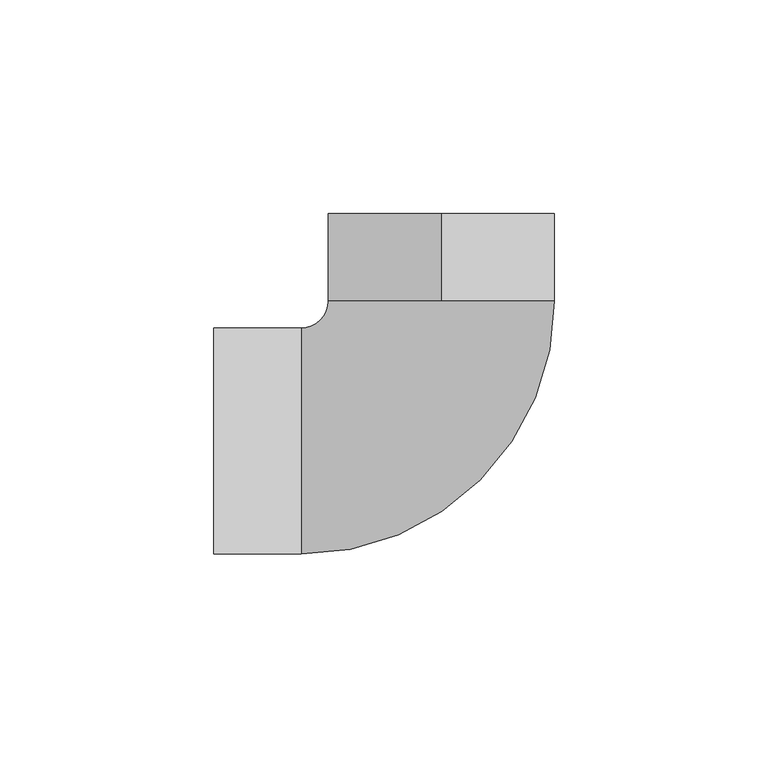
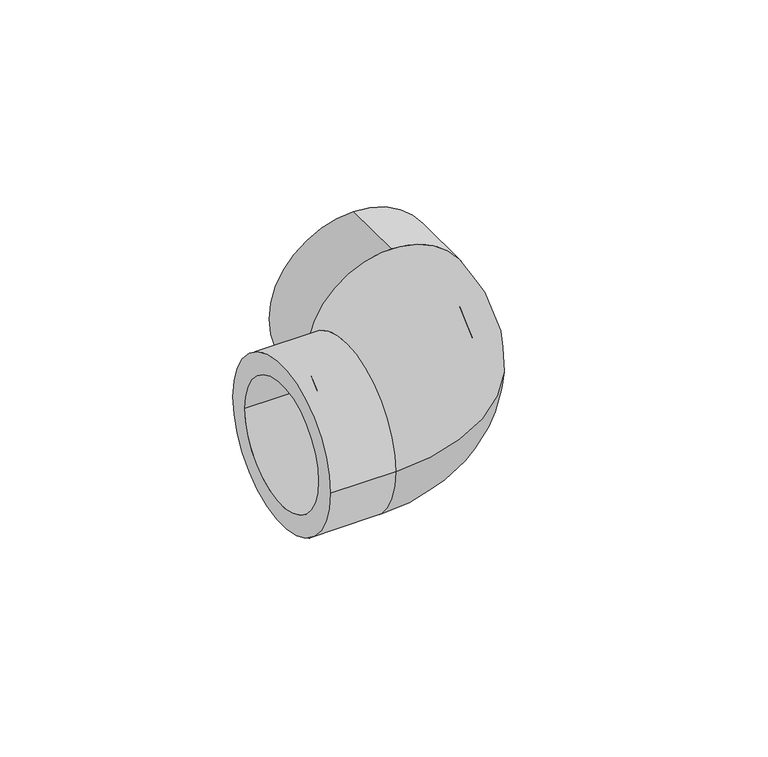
"""IFC4 building model written with IfcOpenShell, lengths in millimetres: pipe fitting geometry, 35_Угольник полипропиленовый 90 : Белый цвет."""

import ifcopenshell
import ifcopenshell.guid

model = None  # the IFC model being written
_history = None  # IfcOwnerHistory: only IFC2X3 demands one
_inside = {}  # id of a spatial element -> (the spatial element, [elements in it])
_under = {}  # id of a project, library or spatial element -> (it, [spatial elements below it])
_declared = {}  # id of a project -> (the project, [libraries it declares])
_typed = {}  # id of a type object -> (the type object, [elements of that type])
_made_of = {}  # id of a material, layer set ... -> (it, [elements and type objects made of it])


def new_model(schema):
    """Start an empty IFC model of exactly this schema.

    Asked for "IFC4X3", IfcOpenShell would pick the latest addendum, in which some entities
    have other attributes; the version numbers below select the first issue.
    IFC2X3 requires an IfcOwnerHistory on every rooted entity: one is made here for all.
    """
    global model, _history
    if schema == "IFC4X3":
        model = ifcopenshell.file(schema_version=(4, 3, 0, 0))
    else:
        model = ifcopenshell.file(schema=schema)
    _inside.clear()
    _under.clear()
    _declared.clear()
    _typed.clear()
    _made_of.clear()
    _history = None
    if model.schema == "IFC2X3":
        org = make("IfcOrganization", Name="unknown")
        user = make(
            "IfcPersonAndOrganization",
            ThePerson=make("IfcPerson", FamilyName="unknown"),
            TheOrganization=org,
        )
        app = make(
            "IfcApplication",
            ApplicationDeveloper=org,
            Version="unknown",
            ApplicationFullName="unknown",
            ApplicationIdentifier="unknown",
        )
        _history = make(
            "IfcOwnerHistory",
            OwningUser=user,
            OwningApplication=app,
            ChangeAction="ADDED",
            CreationDate=0,
        )
    return model


def make(cls, **values):
    """One entity of the class cls with the attributes given. An attribute that is None is left unset."""
    return model.create_entity(
        cls, **{name: value for name, value in values.items() if value is not None}
    )


def rooted(cls, **values):
    """An entity with a GlobalId (a new one), such as an element, a storey or a relation."""
    return make(cls, GlobalId=ifcopenshell.guid.new(), OwnerHistory=_history, **values)


def si_unit(unit_type, name, prefix=None):
    """IfcSIUnit, for example si_unit("LENGTHUNIT", "METRE", prefix="MILLI")."""
    return make("IfcSIUnit", UnitType=unit_type, Prefix=prefix, Name=name)


def assignment(units):
    """IfcUnitAssignment: the units of a project."""
    return None if units is None else make("IfcUnitAssignment", Units=units)


def point(xyz):
    """IfcCartesianPoint."""
    return None if xyz is None else make("IfcCartesianPoint", Coordinates=xyz)


def direction(xyz):
    """IfcDirection."""
    return None if xyz is None else make("IfcDirection", DirectionRatios=xyz)


def frame(location, z_axis=None, x_axis=None):
    """IfcAxis2Placement3D, a coordinate frame: its origin and axes. An axis left out is left unset."""
    return make(
        "IfcAxis2Placement3D",
        Location=point(location),
        Axis=direction(z_axis),
        RefDirection=direction(x_axis),
    )


def origin():
    """The frame at (0, 0, 0) with its axes left unset."""
    return frame((0.0, 0.0, 0.0))


def place(relative_to, where):
    """IfcLocalPlacement: puts the frame where relative to a parent placement (None: the world)."""
    return make(
        "IfcLocalPlacement", PlacementRelTo=relative_to, RelativePlacement=where
    )


def context(
    kind, dimensions, precision=None, world=None, true_north=None, identifier=None
):
    """IfcGeometricRepresentationContext, for example the 3D "Model" context."""
    return make(
        "IfcGeometricRepresentationContext",
        ContextIdentifier=identifier,
        ContextType=kind,
        CoordinateSpaceDimension=dimensions,
        Precision=precision,
        WorldCoordinateSystem=world,
        TrueNorth=true_north,
    )


def project(units=None, contexts=None):
    """IfcProject with its units and contexts."""
    return rooted(
        "IfcProject",
        Name="project",
        RepresentationContexts=contexts,
        UnitsInContext=assignment(units),
    )


def spatial(cls, under=None, at=None, **own):
    """A site, building, storey or space (cls), placed at a placement, below another one or the project."""
    s = rooted(cls, ObjectPlacement=at, **own)
    if under is not None:
        _under.setdefault(under.id(), (under, []))[1].append(s)
    return s


def polyline(points):
    """IfcPolyline through the points."""
    return make("IfcPolyline", Points=[point(p) for p in points])


def circle_curve(where, radius):
    """IfcCircle in the frame where."""
    return make("IfcCircle", Position=where, Radius=radius)


def ellipse_curve(where, semi_axis1, semi_axis2):
    """IfcEllipse in the frame where."""
    return make(
        "IfcEllipse", Position=where, SemiAxis1=semi_axis1, SemiAxis2=semi_axis2
    )


def trimmed(basis, trim1, trim2, sense, master):
    """IfcTrimmedCurve: the piece of a basis curve between two trims."""
    return make(
        "IfcTrimmedCurve",
        BasisCurve=basis,
        Trim1=trim1,
        Trim2=trim2,
        SenseAgreement=sense,
        MasterRepresentation=master,
    )


def shape(context_of_items, identifier, shape_type, items):
    """IfcShapeRepresentation: the items that make up one representation, for example the "Body"."""
    return make(
        "IfcShapeRepresentation",
        ContextOfItems=context_of_items,
        RepresentationIdentifier=identifier,
        RepresentationType=shape_type,
        Items=items,
    )


def source(mapping_origin, context_of_items, identifier, shape_type, items):
    """IfcRepresentationMap: a shape defined once, which mapped items show again and again."""
    return make(
        "IfcRepresentationMap",
        MappingOrigin=mapping_origin,
        MappedRepresentation=shape(context_of_items, identifier, shape_type, items),
    )


def transform(
    local_origin,
    x_axis=None,
    y_axis=None,
    z_axis=None,
    scale=None,
    scale2=None,
    scale3=None,
    uniform=True,
):
    """IfcCartesianTransformationOperator3D, or its non-uniform kind. x_axis, y_axis, z_axis: its Axis1, 2, 3."""
    if uniform:
        return make(
            "IfcCartesianTransformationOperator3D",
            Axis1=direction(x_axis),
            Axis2=direction(y_axis),
            LocalOrigin=point(local_origin),
            Scale=scale,
            Axis3=direction(z_axis),
        )
    return make(
        "IfcCartesianTransformationOperator3DnonUniform",
        Axis1=direction(x_axis),
        Axis2=direction(y_axis),
        LocalOrigin=point(local_origin),
        Scale=scale,
        Axis3=direction(z_axis),
        Scale2=scale2,
        Scale3=scale3,
    )


def mapped(mapping_source, mapping_target):
    """IfcMappedItem: shows the shape of a source again, moved by a transform."""
    return make(
        "IfcMappedItem", MappingSource=mapping_source, MappingTarget=mapping_target
    )


def made_of(thing, what):
    """Note that an element or type object is made of a material, layer set ...; save() writes the relation."""
    if what is not None:
        _made_of.setdefault(what.id(), (what, []))[1].append(thing)
    return thing


def element(
    cls,
    number,
    at=None,
    inside=None,
    cuts=None,
    type_object=None,
    material=None,
    context=None,
    identifier="Body",
    shape_type=None,
    held_by="IfcProductDefinitionShape",
    body=None,
    shapes=None,
    **own,
):
    """One element of the class cls, such as IfcWall. Its Tag is "e" and its number.

    at: its placement. inside: the storey or other place that contains it. cuts: it is an
    opening in that element (IfcRelVoidsElement). A single representation is given by context,
    identifier, shape_type and body (its items); several are given by shapes. held_by: the class
    of the entity that holds the representations. save() writes the other relations.
    """
    e = rooted(cls, Tag="e%d" % number, ObjectPlacement=at, **own)
    if body is not None:
        shapes = [shape(context, identifier, shape_type, body)]
    if shapes is not None:
        e.Representation = make(held_by, Representations=shapes)
    if inside is not None:
        _inside.setdefault(inside.id(), (inside, []))[1].append(e)
    if cuts is not None:
        rooted(
            "IfcRelVoidsElement", RelatingBuildingElement=cuts, RelatedOpeningElement=e
        )
    if type_object is not None:
        _typed.setdefault(type_object.id(), (type_object, []))[1].append(e)
    return made_of(e, material)


def aggregate(whole, parts):
    """IfcRelAggregates: a whole, such as a stair, and the parts it consists of."""
    return rooted("IfcRelAggregates", RelatingObject=whole, RelatedObjects=parts)


def save(model, path):
    """Write the relations noted so far, then the file.

    IfcRelAggregates (storeys below a building ...), IfcRelContainedInSpatialStructure (elements
    in a storey), IfcRelDefinesByType, IfcRelAssociatesMaterial and IfcRelDeclares: one each for
    every whole, place, type object, material and project.
    """
    for whole, parts in _under.values():
        aggregate(whole, parts)
    for where, things in _inside.values():
        rooted(
            "IfcRelContainedInSpatialStructure",
            RelatedElements=things,
            RelatingStructure=where,
        )
    for kind, things in _typed.values():
        rooted("IfcRelDefinesByType", RelatedObjects=things, RelatingType=kind)
    for what, things in _made_of.values():
        rooted("IfcRelAssociatesMaterial", RelatedObjects=things, RelatingMaterial=what)
    for by, libraries in _declared.values():
        rooted("IfcRelDeclares", RelatingContext=by, RelatedDefinitions=libraries)
    model.write(path)


def plane_surface(at):
    """IfcPlane: the flat surface through the origin of the frame at, square to its z axis."""
    return make("IfcPlane", Position=at)


def cylinder_surface(at, radius):
    """IfcCylindricalSurface: all points at the distance radius from the z axis of the frame at."""
    return make("IfcCylindricalSurface", Position=at, Radius=radius)


def revolved_surface(curve, axis_point, axis_direction):
    """IfcSurfaceOfRevolution: the curve turned about the line through axis_point along axis_direction."""
    return make(
        "IfcSurfaceOfRevolution",
        SweptCurve=make("IfcArbitraryOpenProfileDef", ProfileType="CURVE", Curve=curve),
        AxisPosition=make("IfcAxis1Placement", Location=point(axis_point), Axis=direction(axis_direction)),
    )


def advanced_brep(points, edges, surfaces, faces):
    """IfcAdvancedBrep: a solid bounded by faces that lie on surfaces and meet in shared edges.

    An edge is (start, end): straight between two places in points (the first is 0);
    or (start, end, curve); or (start, end, curve, False) where it runs against its curve.
    A face is (place in surfaces, loops), or (place, loops, False) where it looks against
    its surface's normal. A loop lists edges by number (the first is 1), with a minus sign
    where the edge is run from its end to its start. The first loop is the outer one.
    """
    corners = [point(p) for p in points]
    vertices = [make("IfcVertexPoint", VertexGeometry=c) for c in corners]
    made = []
    for start, end, *more in edges:
        made.append(
            make(
                "IfcEdgeCurve",
                EdgeStart=vertices[start],
                EdgeEnd=vertices[end],
                EdgeGeometry=more[0] if more else make("IfcPolyline", Points=[corners[start], corners[end]]),
                SameSense=more[1] if len(more) > 1 else True,
            )
        )
    hull = []
    for where, loops, *sense in faces:
        bounds = []
        for j, loop in enumerate(loops):
            ring = [make("IfcOrientedEdge", EdgeElement=made[abs(k) - 1], Orientation=k > 0) for k in loop]
            bounds.append(
                make(
                    "IfcFaceOuterBound" if j == 0 else "IfcFaceBound",
                    Bound=make("IfcEdgeLoop", EdgeList=ring),
                    Orientation=True,
                )
            )
        hull.append(make("IfcAdvancedFace", Bounds=bounds, FaceSurface=surfaces[where], SameSense=sense[0] if sense else True))
    return make("IfcAdvancedBrep", Outer=make("IfcClosedShell", CfsFaces=hull))


def pipe_fitting_ca50f0bb(model_context):
    return source(origin(), model_context, "Body", "AdvancedBrep", [
        advanced_brep(
        [(-53.35, -26.5, 0.0), (-53.35, 26.5, 0.0), (-53.35, -20.0, 0.0), (-53.35, 20.0, 0.0), (-32.85, 26.5, 0.0), (-32.85, -26.5, 0.0), (-32.85, 20.0, 0.0), (-32.85, -20.0, 0.0), (-32.85, -18.5, 0.0), (-32.85, 18.5, 0.0), (0.0, 32.85, 20.0), (0.0, 32.85, -20.0), (18.5, 32.85, 0.0), (-18.5, 32.85, 0.0), (-26.5, 32.85, 0.0), (26.5, 32.85, 0.0), (0.0, 32.85, 26.5), (0.0, 32.85, -26.5), (0.0, 53.35, -26.5), (0.0, 53.35, 26.5), (0.0, 53.35, -20.0), (0.0, 53.35, 20.0)],
        [
            (0, 1, circle_curve(frame((-53.35, 0.0, 0.0), z_axis=(-1.0, 0.0, 0.0), x_axis=(0.0, 1.0, 0.0)), 26.5)),
            (1, 0, circle_curve(frame((-53.35, 0.0, 0.0), z_axis=(-1.0, 0.0, 0.0), x_axis=(0.0, 1.0, 0.0)), 26.5)),
            (2, 3, circle_curve(frame((-53.35, 0.0, 0.0), z_axis=(1.0, 0.0, 0.0), x_axis=(0.0, 1.0, 0.0)), 20.0)),
            (3, 2, circle_curve(frame((-53.35, 0.0, 0.0), z_axis=(1.0, 0.0, 0.0), x_axis=(0.0, 1.0, 0.0)), 20.0)),
            (1, 4),
            (4, 5, circle_curve(frame((-32.85, 0.0, 0.0), z_axis=(-1.0, 0.0, 0.0), x_axis=(0.0, 1.0, 0.0)), 26.5)),
            (5, 0),
            (5, 4, circle_curve(frame((-32.85, 0.0, 0.0), z_axis=(-1.0, 0.0, 0.0), x_axis=(0.0, 1.0, 0.0)), 26.5)),
            (3, 6),
            (6, 7, circle_curve(frame((-32.85, 0.0, 0.0), z_axis=(1.0, 0.0, 0.0), x_axis=(0.0, 1.0, 0.0)), 20.0)),
            (7, 2),
            (7, 6, circle_curve(frame((-32.85, 0.0, 0.0), z_axis=(1.0, 0.0, 0.0), x_axis=(0.0, 1.0, 0.0)), 20.0)),
            (8, 9, circle_curve(frame((-32.85, 0.0, 0.0), z_axis=(1.0, 0.0, 0.0), x_axis=(0.0, 1.0, 0.0)), 18.5)),
            (9, 8, circle_curve(frame((-32.85, 0.0, 0.0), z_axis=(1.0, 0.0, 0.0), x_axis=(0.0, 1.0, 0.0)), 18.5)),
            (10, 11, circle_curve(frame((0.0, 32.85, 0.0), z_axis=(0.0, 1.0, 0.0), x_axis=(0.0, 0.0, 1.0)), 20.0)),
            (11, 10, circle_curve(frame((0.0, 32.85, 0.0), z_axis=(0.0, 1.0, 0.0), x_axis=(0.0, 0.0, 1.0)), 20.0)),
            (12, 13, circle_curve(frame((0.0, 32.85, 0.0), z_axis=(0.0, -1.0, 0.0), x_axis=(-1.0, 0.0, 0.0)), 18.5)),
            (13, 12, circle_curve(frame((0.0, 32.85, 0.0), z_axis=(0.0, -1.0, 0.0), x_axis=(-1.0, 0.0, 0.0)), 18.5)),
            (14, 4, circle_curve(frame((-32.85, 32.85, 0.0), z_axis=(0.0, 0.0, -1.0), x_axis=(0.0, -1.0, 0.0)), 6.35)),
            (5, 15, circle_curve(frame((-32.85, 32.85, 0.0), z_axis=(0.0, 0.0, 1.0), x_axis=(0.0, -1.0, 0.0)), 59.35)),
            (15, 16, circle_curve(frame((0.0, 32.85, 0.0), z_axis=(0.0, -1.0, 0.0), x_axis=(-1.0, 0.0, 0.0)), 26.5)),
            (16, 14, circle_curve(frame((0.0, 32.85, 0.0), z_axis=(0.0, -1.0, 0.0), x_axis=(-1.0, 0.0, 0.0)), 26.5)),
            (14, 17, circle_curve(frame((0.0, 32.85, 0.0), z_axis=(0.0, -1.0, 0.0), x_axis=(-1.0, 0.0, 0.0)), 26.5)),
            (17, 15, circle_curve(frame((0.0, 32.85, 0.0), z_axis=(0.0, -1.0, 0.0), x_axis=(-1.0, 0.0, 0.0)), 26.5)),
            (8, 12, circle_curve(frame((-32.85, 32.85, 0.0), z_axis=(0.0, 0.0, 1.0), x_axis=(0.0, -1.0, 0.0)), 51.35)),
            (13, 9, circle_curve(frame((-32.85, 32.85, 0.0), z_axis=(0.0, 0.0, -1.0), x_axis=(0.0, -1.0, 0.0)), 14.35)),
            (18, 19, circle_curve(frame((0.0, 53.35, 0.0), z_axis=(0.0, 1.0, 0.0), x_axis=(0.0, 0.0, 1.0)), 26.5)),
            (19, 18, circle_curve(frame((0.0, 53.35, 0.0), z_axis=(0.0, 1.0, 0.0), x_axis=(0.0, 0.0, 1.0)), 26.5)),
            (20, 21, circle_curve(frame((0.0, 53.35, 0.0), z_axis=(0.0, -1.0, 0.0), x_axis=(0.0, 0.0, 1.0)), 20.0)),
            (21, 20, circle_curve(frame((0.0, 53.35, 0.0), z_axis=(0.0, -1.0, 0.0), x_axis=(0.0, 0.0, 1.0)), 20.0)),
            (18, 17),
            (16, 19),
            (20, 11),
            (10, 21),
        ],
        [
            plane_surface(frame((-53.35, 26.5, 0.0), z_axis=(-1.0, 0.0, 0.0), x_axis=(0.0, 0.0, -1.0))),
            cylinder_surface(frame((-53.35, 0.0, 0.0), z_axis=(1.0, 0.0, 0.0), x_axis=(0.0, 1.0, 0.0)), 26.5),
            revolved_surface(polyline([(-53.35, 20.0, 0.0), (-32.85, 20.0, 0.0)]), (0.0, 0.0, 0.0), (-1.0, 0.0, 0.0)),
            plane_surface(frame((-32.85, 0.0, 0.0), z_axis=(-1.0, 0.0, 0.0), x_axis=(0.0, 0.0, 1.0))),
            plane_surface(frame((0.0, 32.85, 0.0), z_axis=(0.0, 1.0, 0.0), x_axis=(0.0, 0.0, 1.0))),
            revolved_surface(trimmed(ellipse_curve(frame((-32.85, 0.0, 0.0), z_axis=(-1.0, 0.0, 0.0), x_axis=(0.0, 1.0, 0.0)), 26.5, 26.5), [point((-32.85, -26.5, 0.0))], [point((-32.85, 26.5, 0.0))], True, "CARTESIAN"), (-32.85, 32.85, 0.0), (0.0, 0.0, 1.0)),
            revolved_surface(trimmed(ellipse_curve(frame((-32.85, 0.0, 0.0), z_axis=(-1.0, 0.0, 0.0), x_axis=(0.0, 1.0, 0.0)), 26.5, 26.5), [point((-32.85, 26.5, 0.0))], [point((-32.85, -26.5, 0.0))], True, "CARTESIAN"), (-32.85, 32.85, 0.0), (0.0, 0.0, 1.0)),
            revolved_surface(trimmed(ellipse_curve(frame((-32.85, 0.0, 0.0), z_axis=(1.0, 0.0, 0.0), x_axis=(0.0, 1.0, 0.0)), 18.5, 18.5), [point((-32.85, -18.5, 0.0))], [point((-32.85, 18.5, 0.0))], True, "CARTESIAN"), (-32.85, 32.85, 0.0), (0.0, 0.0, 1.0)),
            revolved_surface(trimmed(ellipse_curve(frame((-32.85, 0.0, 0.0), z_axis=(1.0, 0.0, 0.0), x_axis=(0.0, 1.0, 0.0)), 18.5, 18.5), [point((-32.85, 18.5, 0.0))], [point((-32.85, -18.5, 0.0))], True, "CARTESIAN"), (-32.85, 32.85, 0.0), (0.0, 0.0, 1.0)),
            plane_surface(frame((0.0, 53.35, 26.5), z_axis=(0.0, 1.0, 0.0), x_axis=(1.0, 0.0, 0.0))),
            cylinder_surface(frame((0.0, 32.85, 0.0), z_axis=(0.0, 1.0, 0.0), x_axis=(0.0, 0.0, 1.0)), 26.5),
            revolved_surface(polyline([(0.0, 32.85, 20.0), (0.0, 53.35, 20.0)]), (0.0, 32.85, 0.0), (0.0, -1.0, 0.0)),
        ],
        [
            (0, [[1, 2], [3, 4]]),
            (1, [[-2, 5, 6, 7]]),
            (1, [[-1, -7, 8, -5]]),
            (2, [[-4, 9, 10, 11]]),
            (2, [[-3, -11, 12, -9]]),
            (3, [[-10, -12], [13, 14]]),
            (4, [[15, 16], [17, 18]]),
            (5, [[19, -8, 20, 21, 22]]),
            (6, [[-19, 23, 24, -20, -6]]),
            (7, [[-13, 25, -18, 26]]),
            (8, [[-14, -26, -17, -25]]),
            (9, [[27, 28], [29, 30]]),
            (10, [[-27, 31, -23, -22, 32]]),
            (10, [[-28, -32, -21, -24, -31]]),
            (11, [[-29, 33, -15, 34]]),
            (11, [[-30, -34, -16, -33]]),
        ],
    ),
    ])


if __name__ == "__main__":
    model = new_model("IFC4")
    model_context = context("Model", 3, world=origin())
    ifc_project = project(units=[si_unit("LENGTHUNIT", "METRE", prefix="MILLI")], contexts=[model_context])
    site = spatial("IfcSite", under=ifc_project)
    building = spatial("IfcBuilding", under=site)
    placement = place(None, origin())
    pipe_fitting_shape = pipe_fitting_ca50f0bb(model_context)
    element("IfcPipeFitting", 1, ObjectType="35_Угольник полипропиленовый 90 : Белый цвет", at=placement, inside=building, context=model_context, shape_type="MappedRepresentation", body=[
        mapped(pipe_fitting_shape, transform((0.0, 0.0, 0.0), x_axis=(1.0, 0.0, 0.0), y_axis=(0.0, 1.0, 0.0), z_axis=(0.0, 0.0, 1.0))),
    ])
    save(model, "model.ifc")
